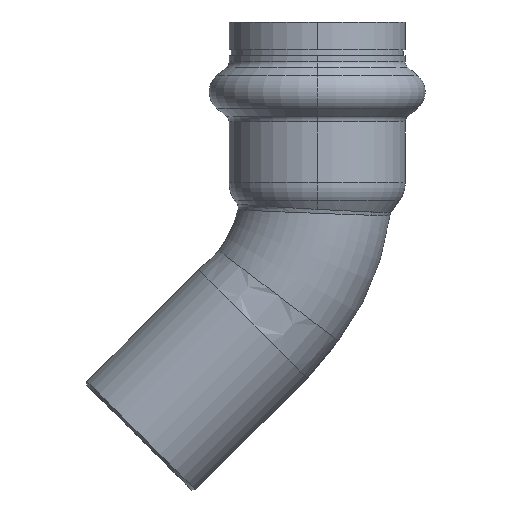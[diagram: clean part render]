
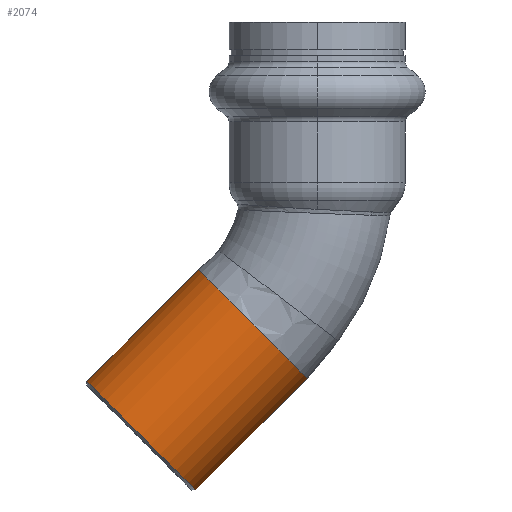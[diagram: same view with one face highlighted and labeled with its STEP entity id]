
A CAD part, left-side view. The second image highlights one B-rep face of the part: STEP entity #2074.
In plain terms, the highlighted cylindrical face has radius 11 mm (diameter 22 mm), a partial arc.
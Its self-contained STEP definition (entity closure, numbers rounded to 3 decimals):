
#12 = CIRCLE ( 'NONE', #1419, 11. ) ;
#77 = CARTESIAN_POINT ( 'NONE',  ( 0., 17.395, -32.951 ) ) ;
#82 = FACE_OUTER_BOUND ( 'NONE', #1402, .T. ) ;
#88 = VERTEX_POINT ( 'NONE', #1412 ) ;
#167 = LINE ( 'NONE', #315, #2355 ) ;
#315 = CARTESIAN_POINT ( 'NONE',  ( 0., 32.149, -16.593 ) ) ;
#342 = DIRECTION ( 'NONE',  ( 0., 0.707, -0.707 ) ) ;
#364 = DIRECTION ( 'NONE',  ( 0., 0.707, -0.707 ) ) ;
#449 = ORIENTED_EDGE ( 'NONE', *, *, #1262, .T. ) ;
#490 = ORIENTED_EDGE ( 'NONE', *, *, #2436, .T. ) ;
#553 = CARTESIAN_POINT ( 'NONE',  ( 0., 16.593, -32.149 ) ) ;
#617 = VERTEX_POINT ( 'NONE', #1007 ) ;
#721 = CIRCLE ( 'NONE', #791, 11. ) ;
#762 = VERTEX_POINT ( 'NONE', #77 ) ;
#791 = AXIS2_PLACEMENT_3D ( 'NONE', #1518, #1509, #1763 ) ;
#869 = VERTEX_POINT ( 'NONE', #1131 ) ;
#887 = CARTESIAN_POINT ( 'NONE',  ( 0., 9.192, -9.192 ) ) ;
#892 = DIRECTION ( 'NONE',  ( 0., 0.707, -0.707 ) ) ;
#898 = DIRECTION ( 'NONE',  ( 0., 0.707, 0.707 ) ) ;
#1007 = CARTESIAN_POINT ( 'NONE',  ( 0., 16.971, -1.414 ) ) ;
#1021 = AXIS2_PLACEMENT_3D ( 'NONE', #2091, #2088, #2084 ) ;
#1131 = CARTESIAN_POINT ( 'NONE',  ( 0., 1.414, -16.971 ) ) ;
#1186 = ORIENTED_EDGE ( 'NONE', *, *, #1729, .T. ) ;
#1189 = VECTOR ( 'NONE', #364, 1000. ) ;
#1228 = EDGE_CURVE ( 'NONE', #869, #762, #2190, .T. ) ;
#1262 = EDGE_CURVE ( 'NONE', #617, #88, #167, .T. ) ;
#1402 = EDGE_LOOP ( 'NONE', ( #1460, #1186, #449, #490 ) ) ;
#1412 = CARTESIAN_POINT ( 'NONE',  ( 0., 32.951, -17.395 ) ) ;
#1419 = AXIS2_PLACEMENT_3D ( 'NONE', #887, #892, #898 ) ;
#1460 = ORIENTED_EDGE ( 'NONE', *, *, #1228, .F. ) ;
#1509 = DIRECTION ( 'NONE',  ( 0., -0.707, 0.707 ) ) ;
#1518 = CARTESIAN_POINT ( 'NONE',  ( 0., 25.173, -25.173 ) ) ;
#1729 = EDGE_CURVE ( 'NONE', #869, #617, #12, .T. ) ;
#1763 = DIRECTION ( 'NONE',  ( 0., 0.707, 0.707 ) ) ;
#2074 = ADVANCED_FACE ( 'NONE', ( #82 ), #2192, .T. ) ;
#2084 = DIRECTION ( 'NONE',  ( 0., 0.707, 0.707 ) ) ;
#2088 = DIRECTION ( 'NONE',  ( 0., 0.707, -0.707 ) ) ;
#2091 = CARTESIAN_POINT ( 'NONE',  ( 0., 24.371, -24.371 ) ) ;
#2190 = LINE ( 'NONE', #553, #1189 ) ;
#2192 = CYLINDRICAL_SURFACE ( 'NONE', #1021, 11. ) ;
#2355 = VECTOR ( 'NONE', #342, 1000. ) ;
#2436 = EDGE_CURVE ( 'NONE', #88, #762, #721, .T. ) ;
